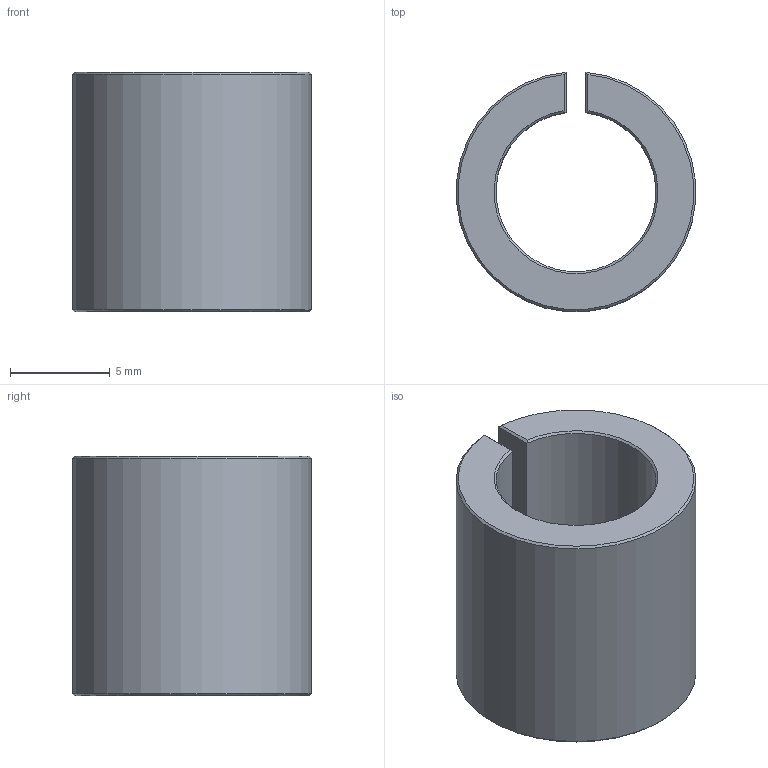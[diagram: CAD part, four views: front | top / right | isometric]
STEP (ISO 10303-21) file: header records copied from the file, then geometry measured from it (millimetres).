
FILE_DESCRIPTION((''),'2;1');
FILE_NAME('0000849356','2025-08-14T08:12:20',('pdmservice'),(''),'CREO PARAMETRIC BY PTC INC, 2024014','CREO PARAMETRIC BY PTC INC, 2024014','');
FILE_SCHEMA(('AUTOMOTIVE_DESIGN { 1 0 10303 214 1 1 1 1 }'));
Length unit declared in the file: millimetre
Products named in the file (1): 0000849356
Bounding box: 11.96 x 11.96 x 12 mm (x, y, z)
Surface area: 892.2 mm2 (no closed solid volume)
Topology: 0 solids, 1 shells, 14 faces, 28 edges, 16 vertices
Faces by surface type: plane 8, cone 4, cylinder 2
Entity records: 1350 total; most frequent: PROPERTY_DEFINITION 131, REPRESENTATION 130, PROPERTY_DEFINITION_REPRESENTATION 130, DESCRIPTIVE_REPRESENTATION_ITEM 122, GENERAL_PROPERTY 117, GENERAL_PROPERTY_ASSOCIATION 117, CARTESIAN_POINT 90, DIRECTION 56
